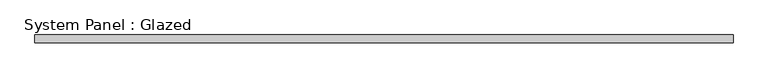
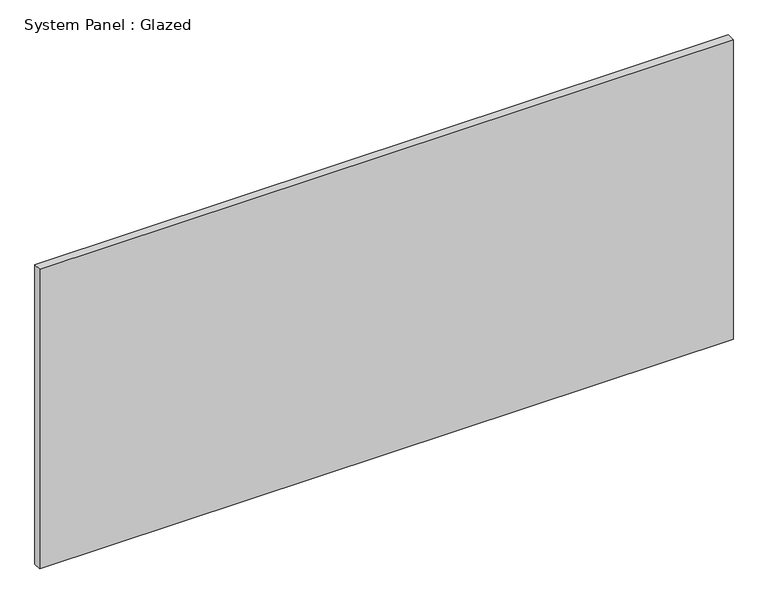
"""IFC4 building model written with IfcOpenShell, lengths in millimetres: plate geometry, System Panel : Glazed."""

from ifc_helpers import new_model, si_unit, origin, origin_with_axes, place, context, project, spatial, polyline, outline, extrude, source, transform, mapped, element, save


def system_panel_glazed_07eba4bf(model_context):
    return source(origin(), model_context, "Body", "SweptSolid", [
        extrude(outline(polyline([(1098.686026, 19.05), (-1098.686026, 19.05), (-1098.686026, 44.45), (1098.686026, 44.45), (1098.686026, 19.05)])), origin_with_axes(), (0.0, 0.0, 1.0), 1003.3),
    ])


if __name__ == "__main__":
    model = new_model("IFC4")
    model_context = context("Model", 3, world=origin())
    ifc_project = project(units=[si_unit("LENGTHUNIT", "METRE", prefix="MILLI")], contexts=[model_context])
    site = spatial("IfcSite", under=ifc_project)
    building = spatial("IfcBuilding", under=site)
    placement = place(None, origin())
    system_panel_glazed_shape = system_panel_glazed_07eba4bf(model_context)
    element("IfcPlate", 1, ObjectType="System Panel : Glazed", at=placement, inside=building, context=model_context, shape_type="MappedRepresentation", body=[
        mapped(system_panel_glazed_shape, transform((0.0, 0.0, 0.0), x_axis=(1.0, 0.0, 0.0), y_axis=(0.0, 1.0, 0.0), z_axis=(0.0, 0.0, 1.0))),
    ])
    save(model, "model.ifc")
